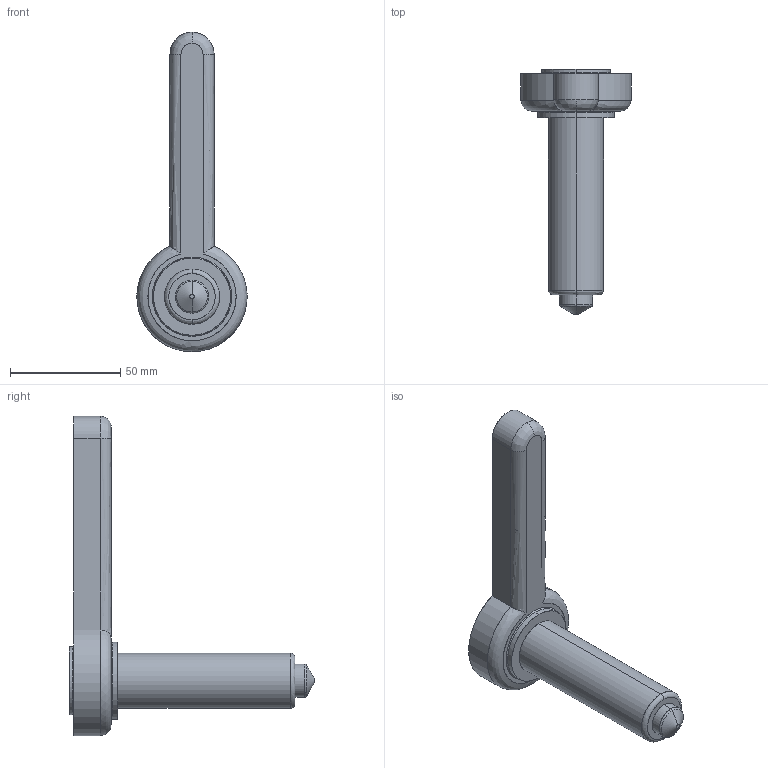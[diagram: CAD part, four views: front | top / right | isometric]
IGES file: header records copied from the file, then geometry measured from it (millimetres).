
Start section: SolidWorks IGES file using analytic representation for surfaces
Global section: file name: C:\Users\luca.EMPAD\Desktop\TEM\Sede UGDL2602-S-A C-89 L-107 Ød=2.0.IGS; native system: SolidWorks 2012; preprocessor: SolidWorks 2012; author: luca; date: 120330.145317; units: millimetre
Bounding box: 49.98 x 111.31 x 145 mm (x, y, z)
Surface area: 19704.8 mm2 (no closed solid volume)
Topology: 0 solids, 0 shells, 36 faces, 698 edges, 698 vertices
Faces by surface type: revolution 21, bspline 15
